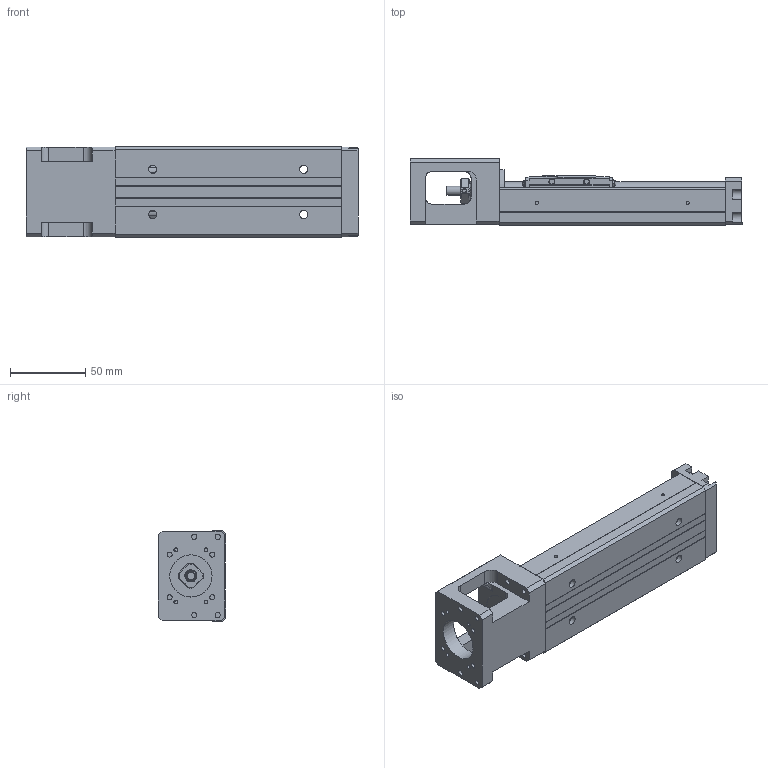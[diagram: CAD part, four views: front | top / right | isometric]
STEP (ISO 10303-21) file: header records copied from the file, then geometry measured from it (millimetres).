
FILE_DESCRIPTION(/* description */ (''),/* implementation_level */ '2;1');
FILE_NAME(/* name */ 'KP33S-150C02-1.stp',/* time_stamp */ '2020-07-01T11:50:01+08:00',/* author */ (''),/* organization */ (''),/* preprocessor_version */ 'ST-DEVELOPER v14',/* originating_system */ 'SIEMENS PLM Software NX 8.0',/* authorisation */ '');
FILE_SCHEMA (('AUTOMOTIVE_DESIGN { 1 0 10303 214 3 1 1 1 }'));
Length unit declared in the file: millimetre
Products named in the file (1): model1
Bounding box: 220 x 44.45 x 60 mm (x, y, z)
Volume: 287915.1 mm3; surface area: 82742.2 mm2
Topology: 5 solids, 10 shells, 570 faces, 1481 edges, 974 vertices
Faces by surface type: plane 341, cylinder 148, bspline 31, extrusion 21, cone 20, torus 7, sphere 2
Full cylindrical faces by diameter (mm): 1.6 x1, 1.65 x4, 2.15 x2, 2.42 x4, 2.45 x2, 2.5 x4, 3.2 x4, 3.3 x4, 3.4 x4, 3.5 x10, 3.969 x1, 4 x4, 4.001 x1, 4.135 x2, 5.5 x4, 6 x5, 7.6 x1, 8 x5, 9.5 x4, 10.72 x3, 11.8 x2, 12 x1, 12.8 x1, 13 x2, 14 x1, 16 x4, 21.5 x1, 28 x1
Entity records: 32087 total; most frequent: CARTESIAN_POINT 14807, DIRECTION 2646, ORIENTED_EDGE 2626, EDGE_CURVE 1313, VERTEX_POINT 916, AXIS2_PLACEMENT_3D 911, VECTOR 824, LINE 803
